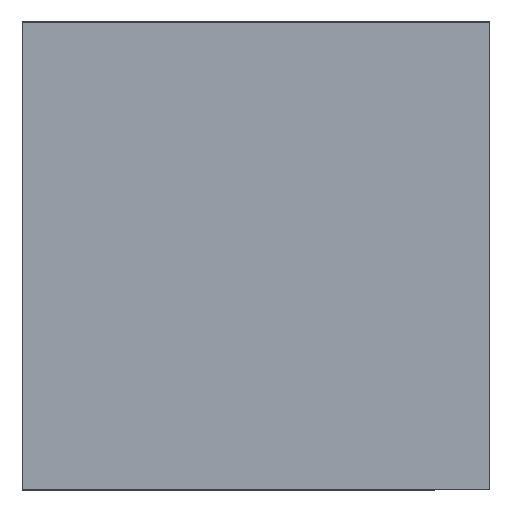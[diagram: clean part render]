
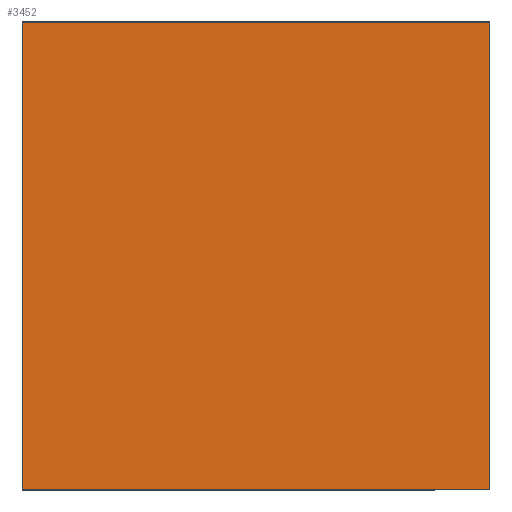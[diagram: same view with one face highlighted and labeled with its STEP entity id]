
A CAD part, left-side view. The second image highlights one B-rep face of the part: STEP entity #3452.
In plain terms, the highlighted planar face has unit normal (-1, 0, 0).
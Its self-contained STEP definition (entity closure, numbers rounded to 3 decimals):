
#541=FACE_OUTER_BOUND('',#726,.T.);
#726=EDGE_LOOP('',(#3055,#3056,#3057,#3058));
#1036=LINE('',#10417,#1388);
#1037=LINE('',#10419,#1389);
#1038=LINE('',#10421,#1390);
#1039=LINE('',#10422,#1391);
#1388=VECTOR('',#4370,304.8);
#1389=VECTOR('',#4371,304.8);
#1390=VECTOR('',#4372,304.8);
#1391=VECTOR('',#4373,304.8);
#1891=VERTEX_POINT('',#10415);
#1892=VERTEX_POINT('',#10416);
#1893=VERTEX_POINT('',#10418);
#1894=VERTEX_POINT('',#10420);
#2379=EDGE_CURVE('',#1891,#1892,#1036,.T.);
#2380=EDGE_CURVE('',#1893,#1891,#1037,.T.);
#2381=EDGE_CURVE('',#1894,#1893,#1038,.T.);
#2382=EDGE_CURVE('',#1892,#1894,#1039,.T.);
#3055=ORIENTED_EDGE('',*,*,#2379,.F.);
#3056=ORIENTED_EDGE('',*,*,#2380,.F.);
#3057=ORIENTED_EDGE('',*,*,#2381,.F.);
#3058=ORIENTED_EDGE('',*,*,#2382,.F.);
#3289=PLANE('',#3679);
#3452=ADVANCED_FACE('',(#541),#3289,.T.);
#3679=AXIS2_PLACEMENT_3D('',#10414,#4368,#4369);
#4368=DIRECTION('center_axis',(-1.,0.,0.));
#4369=DIRECTION('ref_axis',(0.,0.,-1.));
#4370=DIRECTION('',(0.,-1.,0.));
#4371=DIRECTION('',(0.,0.,1.));
#4372=DIRECTION('',(0.,1.,0.));
#4373=DIRECTION('',(0.,0.,-1.));
#10414=CARTESIAN_POINT('Origin',(-250.,42.5,85.));
#10415=CARTESIAN_POINT('',(-250.,42.5,85.));
#10416=CARTESIAN_POINT('',(-250.,-42.5,85.));
#10417=CARTESIAN_POINT('',(-250.,42.5,85.));
#10418=CARTESIAN_POINT('',(-250.,42.5,0.));
#10419=CARTESIAN_POINT('',(-250.,42.5,0.));
#10420=CARTESIAN_POINT('',(-250.,-42.5,0.));
#10421=CARTESIAN_POINT('',(-250.,-42.5,0.));
#10422=CARTESIAN_POINT('',(-250.,-42.5,85.));
